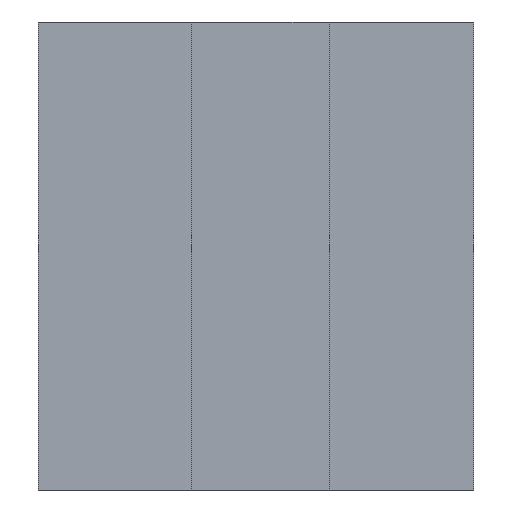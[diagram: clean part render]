
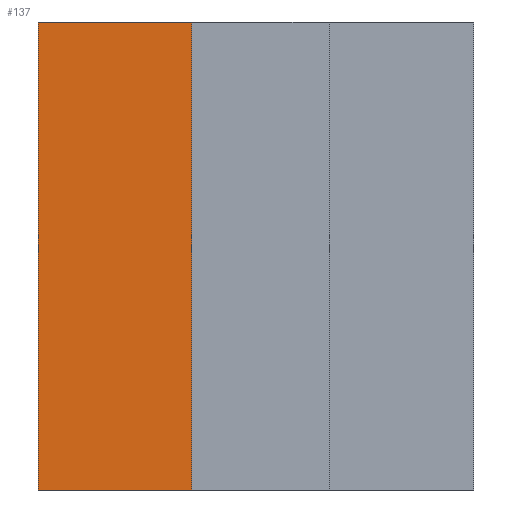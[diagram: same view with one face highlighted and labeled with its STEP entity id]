
A CAD part, left-side view. The second image highlights one B-rep face of the part: STEP entity #137.
In plain terms, the highlighted planar face has unit normal (-1, 0, 0).
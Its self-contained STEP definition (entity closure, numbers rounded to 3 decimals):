
#21 = EDGE_CURVE('',#22,#24,#26,.T.);
#22 = VERTEX_POINT('',#23);
#23 = CARTESIAN_POINT('',(0.,3.725,0.));
#24 = VERTEX_POINT('',#25);
#25 = CARTESIAN_POINT('',(0.,3.725,8.));
#26 = SURFACE_CURVE('',#27,(#31,#43),.PCURVE_S1.);
#27 = LINE('',#28,#29);
#28 = CARTESIAN_POINT('',(0.,3.725,0.));
#29 = VECTOR('',#30,1.);
#30 = DIRECTION('',(0.,0.,1.));
#31 = PCURVE('',#32,#37);
#32 = PLANE('',#33);
#33 = AXIS2_PLACEMENT_3D('',#34,#35,#36);
#34 = CARTESIAN_POINT('',(0.,3.725,0.));
#35 = DIRECTION('',(0.,1.,0.));
#36 = DIRECTION('',(1.,0.,0.));
#37 = DEFINITIONAL_REPRESENTATION('',(#38),#42);
#38 = LINE('',#39,#40);
#39 = CARTESIAN_POINT('',(0.,0.));
#40 = VECTOR('',#41,1.);
#41 = DIRECTION('',(0.,-1.));
#42 = ( GEOMETRIC_REPRESENTATION_CONTEXT(2) 
PARAMETRIC_REPRESENTATION_CONTEXT() REPRESENTATION_CONTEXT('2D SPACE',''
  ) );
#43 = PCURVE('',#44,#49);
#44 = PLANE('',#45);
#45 = AXIS2_PLACEMENT_3D('',#46,#47,#48);
#46 = CARTESIAN_POINT('',(0.,-3.725,0.));
#47 = DIRECTION('',(-1.,0.,0.));
#48 = DIRECTION('',(0.,1.,0.));
#49 = DEFINITIONAL_REPRESENTATION('',(#50),#54);
#50 = LINE('',#51,#52);
#51 = CARTESIAN_POINT('',(7.45,0.));
#52 = VECTOR('',#53,1.);
#53 = DIRECTION('',(0.,-1.));
#54 = ( GEOMETRIC_REPRESENTATION_CONTEXT(2) 
PARAMETRIC_REPRESENTATION_CONTEXT() REPRESENTATION_CONTEXT('2D SPACE',''
  ) );
#72 = PLANE('',#73);
#73 = AXIS2_PLACEMENT_3D('',#74,#75,#76);
#74 = CARTESIAN_POINT('',(70.,0.,8.));
#75 = DIRECTION('',(0.,0.,1.));
#76 = DIRECTION('',(1.,0.,0.));
#126 = PLANE('',#127);
#127 = AXIS2_PLACEMENT_3D('',#128,#129,#130);
#128 = CARTESIAN_POINT('',(70.,0.,0.));
#129 = DIRECTION('',(0.,0.,1.));
#130 = DIRECTION('',(1.,0.,0.));
#137 = ADVANCED_FACE('',(#138),#44,.T.);
#138 = FACE_BOUND('',#139,.T.);
#139 = EDGE_LOOP('',(#140,#163,#191,#212));
#140 = ORIENTED_EDGE('',*,*,#141,.F.);
#141 = EDGE_CURVE('',#142,#22,#144,.T.);
#142 = VERTEX_POINT('',#143);
#143 = CARTESIAN_POINT('',(0.,1.1,0.));
#144 = SURFACE_CURVE('',#145,(#149,#156),.PCURVE_S1.);
#145 = LINE('',#146,#147);
#146 = CARTESIAN_POINT('',(0.,-3.725,0.));
#147 = VECTOR('',#148,1.);
#148 = DIRECTION('',(0.,1.,0.));
#149 = PCURVE('',#44,#150);
#150 = DEFINITIONAL_REPRESENTATION('',(#151),#155);
#151 = LINE('',#152,#153);
#152 = CARTESIAN_POINT('',(0.,0.));
#153 = VECTOR('',#154,1.);
#154 = DIRECTION('',(1.,0.));
#155 = ( GEOMETRIC_REPRESENTATION_CONTEXT(2) 
PARAMETRIC_REPRESENTATION_CONTEXT() REPRESENTATION_CONTEXT('2D SPACE',''
  ) );
#156 = PCURVE('',#126,#157);
#157 = DEFINITIONAL_REPRESENTATION('',(#158),#162);
#158 = LINE('',#159,#160);
#159 = CARTESIAN_POINT('',(-70.,-3.725));
#160 = VECTOR('',#161,1.);
#161 = DIRECTION('',(0.,1.));
#162 = ( GEOMETRIC_REPRESENTATION_CONTEXT(2) 
PARAMETRIC_REPRESENTATION_CONTEXT() REPRESENTATION_CONTEXT('2D SPACE',''
  ) );
#163 = ORIENTED_EDGE('',*,*,#164,.F.);
#164 = EDGE_CURVE('',#165,#142,#167,.T.);
#165 = VERTEX_POINT('',#166);
#166 = CARTESIAN_POINT('',(0.,1.1,8.));
#167 = SURFACE_CURVE('',#168,(#172,#179),.PCURVE_S1.);
#168 = LINE('',#169,#170);
#169 = CARTESIAN_POINT('',(0.,1.1,8.));
#170 = VECTOR('',#171,1.);
#171 = DIRECTION('',(-0.,-0.,-1.));
#172 = PCURVE('',#44,#173);
#173 = DEFINITIONAL_REPRESENTATION('',(#174),#178);
#174 = LINE('',#175,#176);
#175 = CARTESIAN_POINT('',(4.825,-8.));
#176 = VECTOR('',#177,1.);
#177 = DIRECTION('',(0.,1.));
#178 = ( GEOMETRIC_REPRESENTATION_CONTEXT(2) 
PARAMETRIC_REPRESENTATION_CONTEXT() REPRESENTATION_CONTEXT('2D SPACE',''
  ) );
#179 = PCURVE('',#180,#185);
#180 = PLANE('',#181);
#181 = AXIS2_PLACEMENT_3D('',#182,#183,#184);
#182 = CARTESIAN_POINT('',(0.,1.1,8.));
#183 = DIRECTION('',(0.,-1.,0.));
#184 = DIRECTION('',(1.,0.,0.));
#185 = DEFINITIONAL_REPRESENTATION('',(#186),#190);
#186 = LINE('',#187,#188);
#187 = CARTESIAN_POINT('',(0.,0.));
#188 = VECTOR('',#189,1.);
#189 = DIRECTION('',(0.,-1.));
#190 = ( GEOMETRIC_REPRESENTATION_CONTEXT(2) 
PARAMETRIC_REPRESENTATION_CONTEXT() REPRESENTATION_CONTEXT('2D SPACE',''
  ) );
#191 = ORIENTED_EDGE('',*,*,#192,.T.);
#192 = EDGE_CURVE('',#165,#24,#193,.T.);
#193 = SURFACE_CURVE('',#194,(#198,#205),.PCURVE_S1.);
#194 = LINE('',#195,#196);
#195 = CARTESIAN_POINT('',(0.,-3.725,8.));
#196 = VECTOR('',#197,1.);
#197 = DIRECTION('',(0.,1.,0.));
#198 = PCURVE('',#44,#199);
#199 = DEFINITIONAL_REPRESENTATION('',(#200),#204);
#200 = LINE('',#201,#202);
#201 = CARTESIAN_POINT('',(0.,-8.));
#202 = VECTOR('',#203,1.);
#203 = DIRECTION('',(1.,0.));
#204 = ( GEOMETRIC_REPRESENTATION_CONTEXT(2) 
PARAMETRIC_REPRESENTATION_CONTEXT() REPRESENTATION_CONTEXT('2D SPACE',''
  ) );
#205 = PCURVE('',#72,#206);
#206 = DEFINITIONAL_REPRESENTATION('',(#207),#211);
#207 = LINE('',#208,#209);
#208 = CARTESIAN_POINT('',(-70.,-3.725));
#209 = VECTOR('',#210,1.);
#210 = DIRECTION('',(0.,1.));
#211 = ( GEOMETRIC_REPRESENTATION_CONTEXT(2) 
PARAMETRIC_REPRESENTATION_CONTEXT() REPRESENTATION_CONTEXT('2D SPACE',''
  ) );
#212 = ORIENTED_EDGE('',*,*,#21,.F.);
